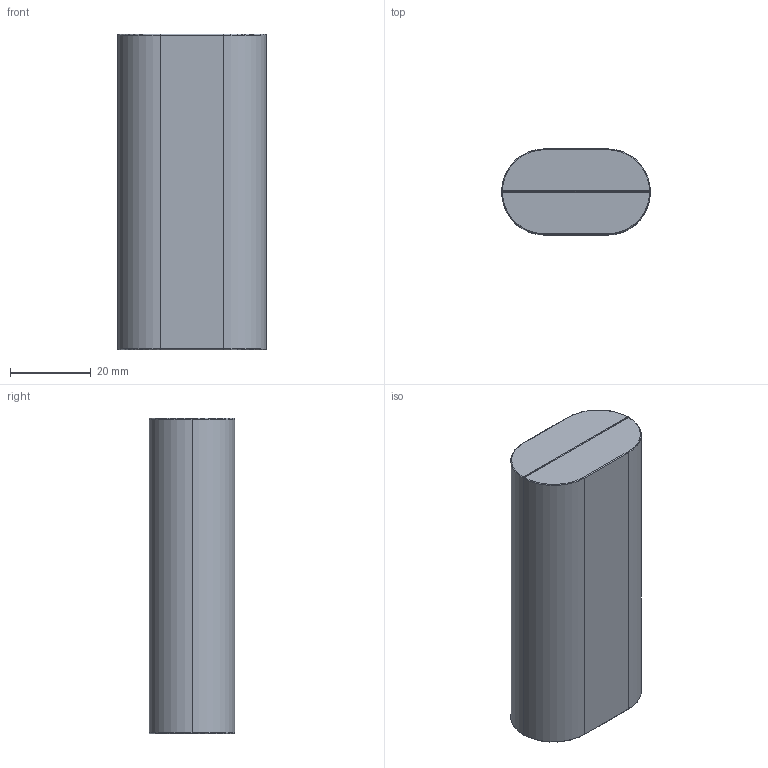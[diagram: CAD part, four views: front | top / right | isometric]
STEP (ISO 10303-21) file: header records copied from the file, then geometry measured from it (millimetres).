
FILE_DESCRIPTION (( 'STEP AP214' ), '1' );
FILE_NAME ('Conjunt PP23.STEP', '2017-11-28T11:07:29', ( 'aaa' ), ( '' ), 'SwSTEP 2.0', 'SolidWorks 2013', '' );
FILE_SCHEMA (( 'AUTOMOTIVE_DESIGN' ));
Length unit declared in the file: millimetre
Products named in the file (4): Conjunt PP23; Cargol 2,2x6,5 PP23; Tapa PP23; Cos PP23
Assembly tree (4 placements, depth 2):
  Conjunt PP23
    Cos PP23
    Tapa PP23
    Cargol 2,2x6,5 PP23  x2
Bounding box: 36.8 x 21.2 x 78 mm (x, y, z)
Volume: 18188.3 mm3; surface area: 19081.2 mm2
Topology: 4 solids, 4 shells, 218 faces, 466 edges, 278 vertices
Faces by surface type: cone 76, plane 74, cylinder 56, torus 12
Entity records: 4994 total; most frequent: CARTESIAN_POINT 1246, DIRECTION 802, ORIENTED_EDGE 692, EDGE_CURVE 346, AXIS2_PLACEMENT_3D 309, VERTEX_POINT 213, EDGE_LOOP 189, LINE 184
